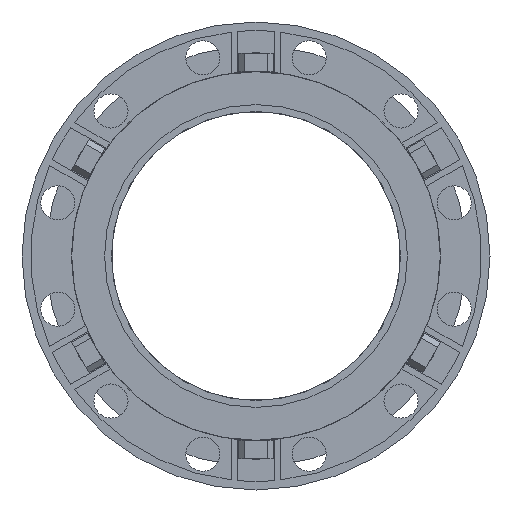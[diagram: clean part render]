
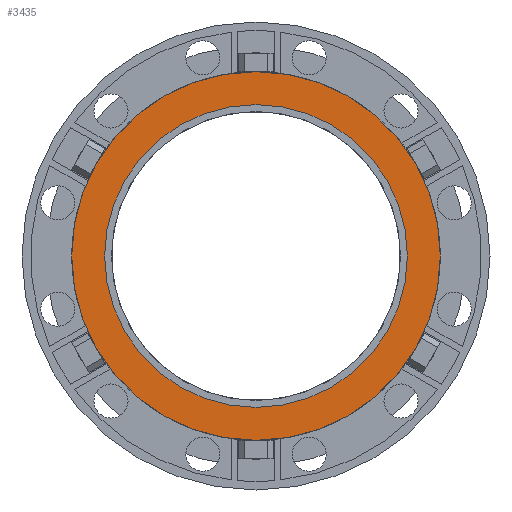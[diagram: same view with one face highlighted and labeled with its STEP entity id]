
A CAD part, front view. The second image highlights one B-rep face of the part: STEP entity #3435.
In plain terms, the highlighted planar face has unit normal (0, -1, 0).
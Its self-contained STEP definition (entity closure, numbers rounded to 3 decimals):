
#163 = DIRECTION ( 'NONE',  ( 0., 1., 0. ) ) ;
#700 = VERTEX_POINT ( 'NONE', #19869 ) ;
#1611 = DIRECTION ( 'NONE',  ( 0., 0., 1. ) ) ;
#1946 = CIRCLE ( 'NONE', #18313, 131. ) ;
#2482 = EDGE_LOOP ( 'NONE', ( #6826, #18636 ) ) ;
#2838 = FACE_BOUND ( 'NONE', #2482, .T. ) ;
#3007 = DIRECTION ( 'NONE',  ( 0., 0., 1. ) ) ;
#3435 = ADVANCED_FACE ( 'Defeatured_0_316', ( #2838, #12480 ), #6006, .F. ) ;
#4268 = DIRECTION ( 'NONE',  ( 0., 1., 0. ) ) ;
#4490 = EDGE_CURVE ( 'Defeatured_0_316+Defeatured_0_490+Defeatured_0_490+Defeatured_0_490', #10409, #10127, #1946, .T. ) ;
#5331 = CARTESIAN_POINT ( 'NONE',  ( 0., -3., 0. ) ) ;
#6006 = PLANE ( 'NONE',  #12702 ) ;
#6665 = AXIS2_PLACEMENT_3D ( 'NONE', #15819, #20140, #3007 ) ;
#6826 = ORIENTED_EDGE ( 'NONE', *, *, #4490, .T. ) ;
#7743 = EDGE_LOOP ( 'NONE', ( #20020, #9469 ) ) ;
#7961 = AXIS2_PLACEMENT_3D ( 'NONE', #5331, #8819, #10061 ) ;
#8171 = VERTEX_POINT ( 'NONE', #14332 ) ;
#8525 = EDGE_CURVE ( 'Defeatured_0_316+Defeatured_0_490+Defeatured_0_490+Defeatured_0_490', #10127, #10409, #13166, .T. ) ;
#8819 = DIRECTION ( 'NONE',  ( 0., 1., 0. ) ) ;
#8992 = DIRECTION ( 'NONE',  ( 0., 0., 1. ) ) ;
#9469 = ORIENTED_EDGE ( 'NONE', *, *, #17852, .F. ) ;
#9485 = DIRECTION ( 'NONE',  ( 0., 1., 0. ) ) ;
#9744 = EDGE_CURVE ( 'Defeatured_0_317+Defeatured_0_316+Defeatured_0_316+Defeatured_0_316', #700, #8171, #15483, .T. ) ;
#10061 = DIRECTION ( 'NONE',  ( 0., 0., 1. ) ) ;
#10127 = VERTEX_POINT ( 'NONE', #18030 ) ;
#10409 = VERTEX_POINT ( 'NONE', #11228 ) ;
#10932 = CARTESIAN_POINT ( 'NONE',  ( 0., -3., 0. ) ) ;
#11045 = CARTESIAN_POINT ( 'NONE',  ( 0., -3., 0. ) ) ;
#11228 = CARTESIAN_POINT ( 'NONE',  ( 0., -3., -131. ) ) ;
#12480 = FACE_OUTER_BOUND ( 'NONE', #7743, .T. ) ;
#12702 = AXIS2_PLACEMENT_3D ( 'NONE', #11045, #163, #1611 ) ;
#12871 = DIRECTION ( 'NONE',  ( 0., 0., 1. ) ) ;
#13166 = CIRCLE ( 'NONE', #14801, 131. ) ;
#14332 = CARTESIAN_POINT ( 'NONE',  ( 0., -3., 159.5 ) ) ;
#14801 = AXIS2_PLACEMENT_3D ( 'NONE', #10932, #9485, #12871 ) ;
#15483 = CIRCLE ( 'NONE', #7961, 159.5 ) ;
#15819 = CARTESIAN_POINT ( 'NONE',  ( 0., -3., 0. ) ) ;
#17486 = CIRCLE ( 'NONE', #6665, 159.5 ) ;
#17852 = EDGE_CURVE ( 'Defeatured_0_317+Defeatured_0_316+Defeatured_0_316+Defeatured_0_316', #8171, #700, #17486, .T. ) ;
#18030 = CARTESIAN_POINT ( 'NONE',  ( 0., -3., 131. ) ) ;
#18131 = CARTESIAN_POINT ( 'NONE',  ( 0., -3., 0. ) ) ;
#18313 = AXIS2_PLACEMENT_3D ( 'NONE', #18131, #4268, #8992 ) ;
#18636 = ORIENTED_EDGE ( 'NONE', *, *, #8525, .T. ) ;
#19869 = CARTESIAN_POINT ( 'NONE',  ( 0., -3., -159.5 ) ) ;
#20020 = ORIENTED_EDGE ( 'NONE', *, *, #9744, .F. ) ;
#20140 = DIRECTION ( 'NONE',  ( 0., 1., 0. ) ) ;
